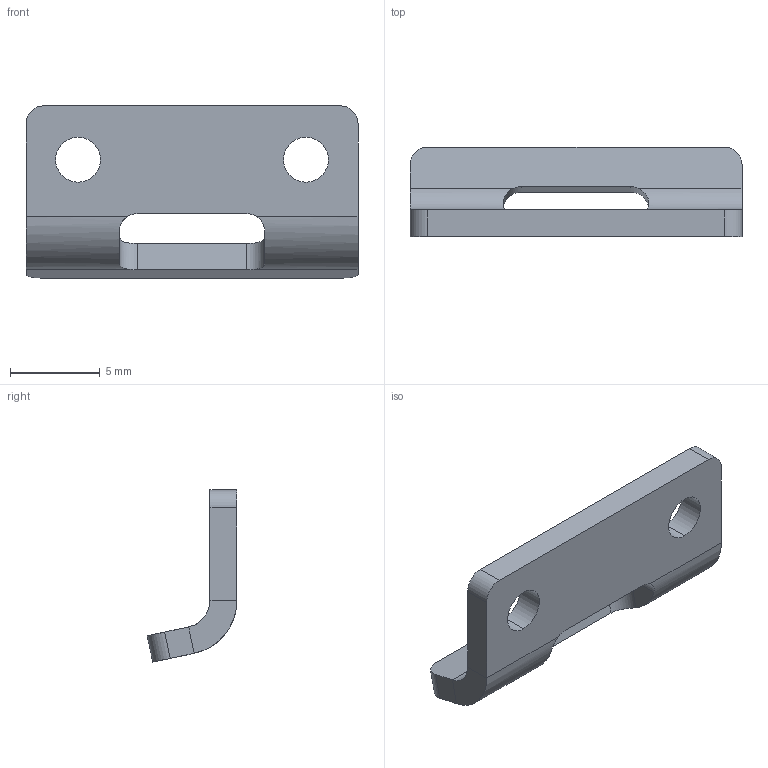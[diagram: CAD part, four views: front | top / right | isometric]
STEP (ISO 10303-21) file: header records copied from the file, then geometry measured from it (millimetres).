
FILE_DESCRIPTION (( 'STEP AP214' ), '1' );
FILE_NAME ('V96H01_Dummy.STEP', '2009-11-26T12:04:03', ( '' ), ( '' ), 'SwSTEP 2.0', 'SolidWorks 2007', '' );
FILE_SCHEMA (( 'AUTOMOTIVE_DESIGN' ));
Length unit declared in the file: millimetre
Products named in the file (1): V96H01_Dummy
Bounding box: 18.5 x 5 x 9.6 mm (x, y, z)
Volume: 266.3 mm3; surface area: 498.1 mm2
Topology: 1 solids, 1 shells, 32 faces, 88 edges, 56 vertices
Faces by surface type: cylinder 16, plane 16
Entity records: 1105 total; most frequent: CARTESIAN_POINT 243, DIRECTION 178, ORIENTED_EDGE 176, EDGE_CURVE 88, AXIS2_PLACEMENT_3D 65, VERTEX_POINT 56, VECTOR 48, LINE 48
